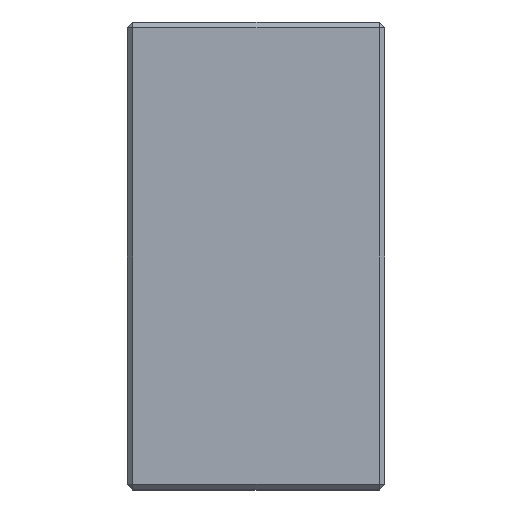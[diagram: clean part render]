
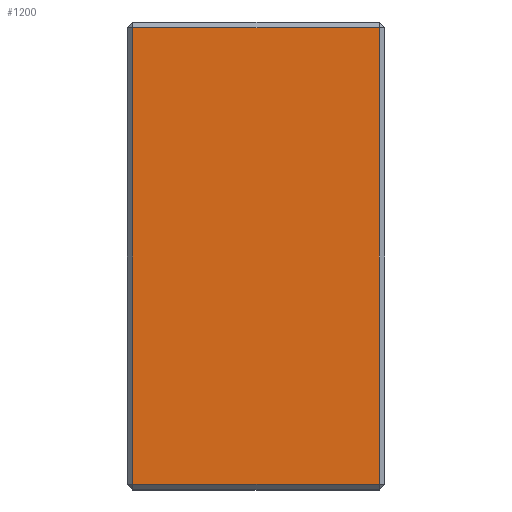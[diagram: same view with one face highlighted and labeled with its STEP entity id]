
A CAD part, left-side view. The second image highlights one B-rep face of the part: STEP entity #1200.
In plain terms, the highlighted planar face has unit normal (-1, 0, 0).
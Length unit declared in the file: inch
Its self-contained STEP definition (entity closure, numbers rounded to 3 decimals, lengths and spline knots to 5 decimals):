
#42 = CARTESIAN_POINT ( 'NONE',  ( -2.475, 0.03, -0.03 ) ) ;
#99 = ORIENTED_EDGE ( 'NONE', *, *, #827, .T. ) ;
#105 = VECTOR ( 'NONE', #1511, 39.37008 ) ;
#126 = EDGE_CURVE ( 'NONE', #1636, #1277, #357, .T. ) ;
#181 = CARTESIAN_POINT ( 'NONE',  ( -2.475, 1.32, 0. ) ) ;
#266 = EDGE_LOOP ( 'NONE', ( #99, #1423, #1609, #1533 ) ) ;
#276 = DIRECTION ( 'NONE',  ( 0., 0., 1. ) ) ;
#357 = LINE ( 'NONE', #1245, #611 ) ;
#474 = LINE ( 'NONE', #1522, #105 ) ;
#610 = EDGE_CURVE ( 'NONE', #1120, #970, #1767, .T. ) ;
#611 = VECTOR ( 'NONE', #276, 39.37008 ) ;
#766 = CARTESIAN_POINT ( 'NONE',  ( -2.475, 1.32, -2.42 ) ) ;
#827 = EDGE_CURVE ( 'NONE', #970, #1636, #474, .T. ) ;
#909 = AXIS2_PLACEMENT_3D ( 'NONE', #1557, #1994, #1678 ) ;
#935 = CARTESIAN_POINT ( 'NONE',  ( -2.475, 0.03, -2.42 ) ) ;
#942 = LINE ( 'NONE', #1092, #1309 ) ;
#970 = VERTEX_POINT ( 'NONE', #766 ) ;
#1013 = EDGE_CURVE ( 'NONE', #1277, #1120, #942, .T. ) ;
#1092 = CARTESIAN_POINT ( 'NONE',  ( -2.475, 1.35, -0.03 ) ) ;
#1120 = VERTEX_POINT ( 'NONE', #1904 ) ;
#1200 = ADVANCED_FACE ( 'NONE', ( #1210 ), #1689, .F. ) ;
#1210 = FACE_OUTER_BOUND ( 'NONE', #266, .T. ) ;
#1245 = CARTESIAN_POINT ( 'NONE',  ( -2.475, 0.03, 0. ) ) ;
#1277 = VERTEX_POINT ( 'NONE', #42 ) ;
#1309 = VECTOR ( 'NONE', #1704, 39.37008 ) ;
#1335 = VECTOR ( 'NONE', #1592, 39.37008 ) ;
#1423 = ORIENTED_EDGE ( 'NONE', *, *, #126, .T. ) ;
#1511 = DIRECTION ( 'NONE',  ( 0., -1., 0. ) ) ;
#1522 = CARTESIAN_POINT ( 'NONE',  ( -2.475, 1.35, -2.42 ) ) ;
#1533 = ORIENTED_EDGE ( 'NONE', *, *, #610, .T. ) ;
#1557 = CARTESIAN_POINT ( 'NONE',  ( -2.475, 1.35, 0. ) ) ;
#1592 = DIRECTION ( 'NONE',  ( 0., 0., -1. ) ) ;
#1609 = ORIENTED_EDGE ( 'NONE', *, *, #1013, .T. ) ;
#1636 = VERTEX_POINT ( 'NONE', #935 ) ;
#1678 = DIRECTION ( 'NONE',  ( 0., 0., -1. ) ) ;
#1689 = PLANE ( 'NONE',  #909 ) ;
#1704 = DIRECTION ( 'NONE',  ( 0., 1., 0. ) ) ;
#1767 = LINE ( 'NONE', #181, #1335 ) ;
#1904 = CARTESIAN_POINT ( 'NONE',  ( -2.475, 1.32, -0.03 ) ) ;
#1994 = DIRECTION ( 'NONE',  ( 1., 0., 0. ) ) ;
